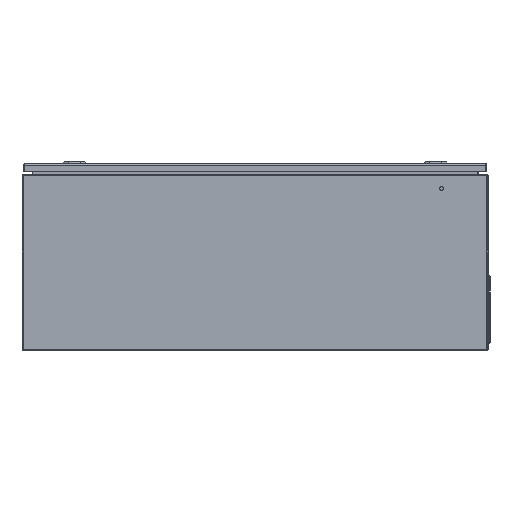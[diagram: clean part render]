
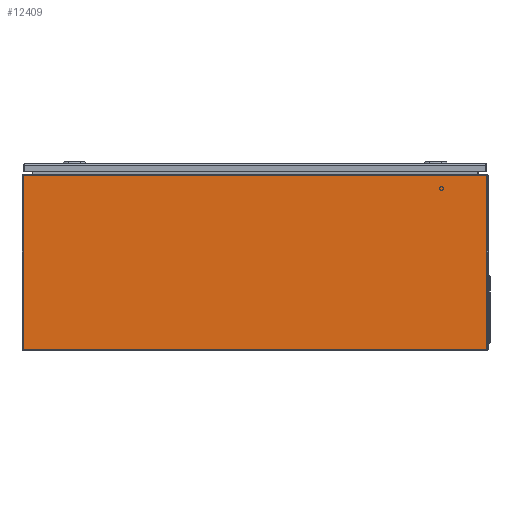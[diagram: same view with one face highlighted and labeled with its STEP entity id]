
A CAD part, left-side view. The second image highlights one B-rep face of the part: STEP entity #12409.
In plain terms, the highlighted planar face has unit normal (-1, 0, 0).
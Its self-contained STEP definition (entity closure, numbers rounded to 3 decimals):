
#2413 = FACE_OUTER_BOUND ( 'NONE', #21740, .T. ) ;
#2518 = VERTEX_POINT ( 'NONE', #18483 ) ;
#4032 = DIRECTION ( 'NONE',  ( 0., -1., 0. ) ) ;
#4899 = CARTESIAN_POINT ( 'NONE',  ( -300., 497.5, 374.5 ) ) ;
#5707 = VECTOR ( 'NONE', #26278, 1000. ) ;
#7394 = LINE ( 'NONE', #9500, #27229 ) ;
#7643 = EDGE_CURVE ( 'NONE', #22118, #18548, #7394, .T. ) ;
#7703 = DIRECTION ( 'NONE',  ( 0., 0., 1. ) ) ;
#9500 = CARTESIAN_POINT ( 'NONE',  ( -300., 497.5, 1.5 ) ) ;
#12409 = ADVANCED_FACE ( 'NONE', ( #2413 ), #21222, .F. ) ;
#12868 = CARTESIAN_POINT ( 'NONE',  ( -300., -500., 1.5 ) ) ;
#13608 = CARTESIAN_POINT ( 'NONE',  ( -300., 500., 374.5 ) ) ;
#13986 = CARTESIAN_POINT ( 'NONE',  ( -300., -497.5, 1.5 ) ) ;
#14637 = LINE ( 'NONE', #25350, #18220 ) ;
#14945 = AXIS2_PLACEMENT_3D ( 'NONE', #12868, #18878, #25132 ) ;
#15927 = LINE ( 'NONE', #13986, #24537 ) ;
#17209 = EDGE_CURVE ( 'NONE', #18548, #19940, #14637, .T. ) ;
#17241 = EDGE_CURVE ( 'NONE', #22118, #2518, #19992, .T. ) ;
#17584 = ORIENTED_EDGE ( 'NONE', *, *, #17241, .F. ) ;
#18019 = DIRECTION ( 'NONE',  ( 0., 0., -1. ) ) ;
#18220 = VECTOR ( 'NONE', #4032, 1000. ) ;
#18400 = CARTESIAN_POINT ( 'NONE',  ( -300., 497.5, 2.35 ) ) ;
#18483 = CARTESIAN_POINT ( 'NONE',  ( -300., -497.5, 374.5 ) ) ;
#18548 = VERTEX_POINT ( 'NONE', #18400 ) ;
#18878 = DIRECTION ( 'NONE',  ( 1., 0., 0. ) ) ;
#19940 = VERTEX_POINT ( 'NONE', #27176 ) ;
#19992 = LINE ( 'NONE', #13608, #5707 ) ;
#21222 = PLANE ( 'NONE',  #14945 ) ;
#21740 = EDGE_LOOP ( 'NONE', ( #22156, #23261, #23388, #17584 ) ) ;
#22118 = VERTEX_POINT ( 'NONE', #4899 ) ;
#22156 = ORIENTED_EDGE ( 'NONE', *, *, #7643, .T. ) ;
#23261 = ORIENTED_EDGE ( 'NONE', *, *, #17209, .T. ) ;
#23388 = ORIENTED_EDGE ( 'NONE', *, *, #23483, .T. ) ;
#23483 = EDGE_CURVE ( 'NONE', #19940, #2518, #15927, .T. ) ;
#24537 = VECTOR ( 'NONE', #7703, 1000. ) ;
#25132 = DIRECTION ( 'NONE',  ( 0., 0., -1. ) ) ;
#25350 = CARTESIAN_POINT ( 'NONE',  ( -300., -500., 2.35 ) ) ;
#26278 = DIRECTION ( 'NONE',  ( 0., -1., 0. ) ) ;
#27176 = CARTESIAN_POINT ( 'NONE',  ( -300., -497.5, 2.35 ) ) ;
#27229 = VECTOR ( 'NONE', #18019, 1000. ) ;
